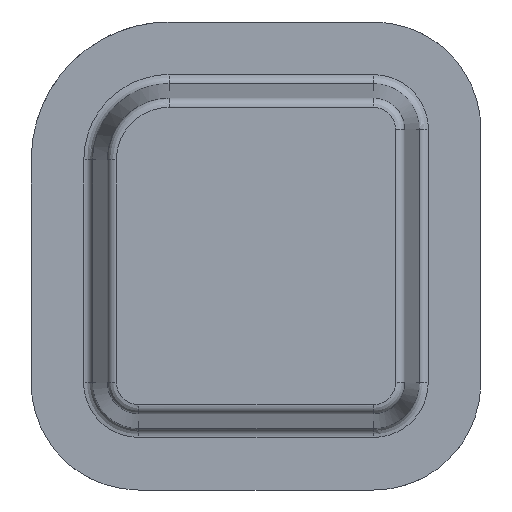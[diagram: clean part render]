
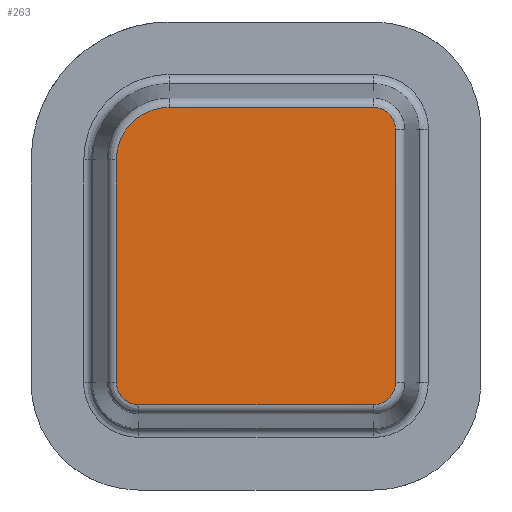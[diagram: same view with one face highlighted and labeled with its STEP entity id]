
A CAD part, front view. The second image highlights one B-rep face of the part: STEP entity #263.
In plain terms, the highlighted planar face has unit normal (0, -1, 0).
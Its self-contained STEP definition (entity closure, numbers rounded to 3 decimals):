
#144=CARTESIAN_POINT('Axis2P3D Location',(49.58,0.,50.42)) ;
#149=CARTESIAN_POINT('Line Origine',(2.749,0.,46.5)) ;
#153=CARTESIAN_POINT('Vertex',(2.749,0.,83.)) ;
#155=CARTESIAN_POINT('Vertex',(2.749,0.,10.)) ;
#159=CARTESIAN_POINT('Control Point',(2.749,0.,10.)) ;
#160=CARTESIAN_POINT('Control Point',(2.749,0.,9.038)) ;
#161=CARTESIAN_POINT('Control Point',(2.908,0.,8.076)) ;
#162=CARTESIAN_POINT('Control Point',(3.227,0.,7.152)) ;
#163=CARTESIAN_POINT('Control Point',(4.158,0.,5.442)) ;
#164=CARTESIAN_POINT('Control Point',(5.59,0.,4.123)) ;
#165=CARTESIAN_POINT('Control Point',(6.41,0.,3.589)) ;
#166=CARTESIAN_POINT('Control Point',(7.601,0.,3.071)) ;
#167=CARTESIAN_POINT('Control Point',(8.862,0.,2.828)) ;
#168=CARTESIAN_POINT('Control Point',(9.181,0.,2.785)) ;
#169=CARTESIAN_POINT('Control Point',(9.537,0.,2.756)) ;
#170=CARTESIAN_POINT('Control Point',(9.893,0.,2.75)) ;
#171=CARTESIAN_POINT('Control Point',(9.929,0.,2.749)) ;
#172=CARTESIAN_POINT('Control Point',(9.964,0.,2.749)) ;
#173=CARTESIAN_POINT('Control Point',(10.,0.,2.749)) ;
#174=CARTESIAN_POINT('Vertex',(10.,0.,2.749)) ;
#177=CARTESIAN_POINT('Line Origine',(48.5,0.,2.749)) ;
#181=CARTESIAN_POINT('Vertex',(87.,0.,2.749)) ;
#185=CARTESIAN_POINT('Control Point',(87.,0.,2.749)) ;
#186=CARTESIAN_POINT('Control Point',(87.962,0.,2.749)) ;
#187=CARTESIAN_POINT('Control Point',(88.924,0.,2.908)) ;
#188=CARTESIAN_POINT('Control Point',(89.848,0.,3.227)) ;
#189=CARTESIAN_POINT('Control Point',(91.558,0.,4.158)) ;
#190=CARTESIAN_POINT('Control Point',(92.877,0.,5.59)) ;
#191=CARTESIAN_POINT('Control Point',(93.411,0.,6.41)) ;
#192=CARTESIAN_POINT('Control Point',(93.929,0.,7.601)) ;
#193=CARTESIAN_POINT('Control Point',(94.172,0.,8.862)) ;
#194=CARTESIAN_POINT('Control Point',(94.215,0.,9.181)) ;
#195=CARTESIAN_POINT('Control Point',(94.244,0.,9.537)) ;
#196=CARTESIAN_POINT('Control Point',(94.25,0.,9.893)) ;
#197=CARTESIAN_POINT('Control Point',(94.251,0.,9.929)) ;
#198=CARTESIAN_POINT('Control Point',(94.251,0.,9.964)) ;
#199=CARTESIAN_POINT('Control Point',(94.251,0.,10.)) ;
#200=CARTESIAN_POINT('Vertex',(94.251,0.,10.)) ;
#203=CARTESIAN_POINT('Line Origine',(94.251,0.,51.5)) ;
#207=CARTESIAN_POINT('Vertex',(94.251,0.,93.)) ;
#211=CARTESIAN_POINT('Control Point',(94.251,0.,93.)) ;
#212=CARTESIAN_POINT('Control Point',(94.251,0.,93.962)) ;
#213=CARTESIAN_POINT('Control Point',(94.092,0.,94.924)) ;
#214=CARTESIAN_POINT('Control Point',(93.773,0.,95.848)) ;
#215=CARTESIAN_POINT('Control Point',(92.842,0.,97.558)) ;
#216=CARTESIAN_POINT('Control Point',(91.41,0.,98.877)) ;
#217=CARTESIAN_POINT('Control Point',(90.59,0.,99.411)) ;
#218=CARTESIAN_POINT('Control Point',(89.399,0.,99.929)) ;
#219=CARTESIAN_POINT('Control Point',(88.138,0.,100.172)) ;
#220=CARTESIAN_POINT('Control Point',(87.819,0.,100.215)) ;
#221=CARTESIAN_POINT('Control Point',(87.463,0.,100.244)) ;
#222=CARTESIAN_POINT('Control Point',(87.107,0.,100.25)) ;
#223=CARTESIAN_POINT('Control Point',(87.071,0.,100.251)) ;
#224=CARTESIAN_POINT('Control Point',(87.036,0.,100.251)) ;
#225=CARTESIAN_POINT('Control Point',(87.,0.,100.251)) ;
#226=CARTESIAN_POINT('Vertex',(87.,0.,100.251)) ;
#229=CARTESIAN_POINT('Line Origine',(53.5,0.,100.251)) ;
#233=CARTESIAN_POINT('Vertex',(20.,0.,100.251)) ;
#237=CARTESIAN_POINT('Control Point',(20.,0.,100.251)) ;
#238=CARTESIAN_POINT('Control Point',(18.077,0.,100.251)) ;
#239=CARTESIAN_POINT('Control Point',(16.153,0.,99.983)) ;
#240=CARTESIAN_POINT('Control Point',(14.282,0.,99.447)) ;
#241=CARTESIAN_POINT('Control Point',(10.736,0.,97.869)) ;
#242=CARTESIAN_POINT('Control Point',(7.757,0.,95.382)) ;
#243=CARTESIAN_POINT('Control Point',(6.451,0.,93.937)) ;
#244=CARTESIAN_POINT('Control Point',(4.493,0.,91.044)) ;
#245=CARTESIAN_POINT('Control Point',(3.313,0.,87.767)) ;
#246=CARTESIAN_POINT('Control Point',(2.954,0.,86.257)) ;
#247=CARTESIAN_POINT('Control Point',(2.762,0.,84.684)) ;
#248=CARTESIAN_POINT('Control Point',(2.749,0.,83.108)) ;
#249=CARTESIAN_POINT('Control Point',(2.749,0.,83.072)) ;
#250=CARTESIAN_POINT('Control Point',(2.749,0.,83.036)) ;
#251=CARTESIAN_POINT('Control Point',(2.749,0.,83.)) ;
#145=DIRECTION('Axis2P3D Direction',(0.,-1.,0.)) ;
#146=DIRECTION('Axis2P3D XDirection',(0.367,0.,0.93)) ;
#150=DIRECTION('Vector Direction',(0.,0.,1.)) ;
#178=DIRECTION('Vector Direction',(1.,0.,0.)) ;
#204=DIRECTION('Vector Direction',(0.,0.,1.)) ;
#230=DIRECTION('Vector Direction',(-1.,0.,0.)) ;
#147=AXIS2_PLACEMENT_3D('Plane Axis2P3D',#144,#145,#146) ;
#254=ORIENTED_EDGE('',*,*,#157,.T.) ;
#255=ORIENTED_EDGE('',*,*,#176,.T.) ;
#256=ORIENTED_EDGE('',*,*,#183,.T.) ;
#257=ORIENTED_EDGE('',*,*,#202,.T.) ;
#258=ORIENTED_EDGE('',*,*,#209,.T.) ;
#259=ORIENTED_EDGE('',*,*,#228,.T.) ;
#260=ORIENTED_EDGE('',*,*,#235,.T.) ;
#261=ORIENTED_EDGE('',*,*,#252,.T.) ;
#151=VECTOR('Line Direction',#150,1.) ;
#179=VECTOR('Line Direction',#178,1.) ;
#205=VECTOR('Line Direction',#204,1.) ;
#231=VECTOR('Line Direction',#230,1.) ;
#263=ADVANCED_FACE('base',(#262),#148,.T.) ;
#158=B_SPLINE_CURVE_WITH_KNOTS('',5,(#159,#160,#161,#162,#163,#164,#165,#166,#167,#168,#169,#170,#171,#172,#173),.UNSPECIFIED.,.F.,.U.,(6,3,3,3,6),(25.408,35.211,45.02,48.289,48.652),.UNSPECIFIED.) ;
#184=B_SPLINE_CURVE_WITH_KNOTS('',5,(#185,#186,#187,#188,#189,#190,#191,#192,#193,#194,#195,#196,#197,#198,#199),.UNSPECIFIED.,.F.,.U.,(6,3,3,3,6),(25.409,35.212,45.02,48.289,48.653),.UNSPECIFIED.) ;
#210=B_SPLINE_CURVE_WITH_KNOTS('',5,(#211,#212,#213,#214,#215,#216,#217,#218,#219,#220,#221,#222,#223,#224,#225),.UNSPECIFIED.,.F.,.U.,(6,3,3,3,6),(25.409,35.212,45.02,48.289,48.653),.UNSPECIFIED.) ;
#236=B_SPLINE_CURVE_WITH_KNOTS('',5,(#237,#238,#239,#240,#241,#242,#243,#244,#245,#246,#247,#248,#249,#250,#251),.UNSPECIFIED.,.F.,.U.,(6,3,3,3,6),(37.393,53.315,69.256,82.,82.299),.UNSPECIFIED.) ;
#157=EDGE_CURVE('',#154,#156,#152,.F.) ;
#176=EDGE_CURVE('',#156,#175,#158,.T.) ;
#183=EDGE_CURVE('',#175,#182,#180,.T.) ;
#202=EDGE_CURVE('',#182,#201,#184,.T.) ;
#209=EDGE_CURVE('',#201,#208,#206,.T.) ;
#228=EDGE_CURVE('',#208,#227,#210,.T.) ;
#235=EDGE_CURVE('',#227,#234,#232,.T.) ;
#252=EDGE_CURVE('',#234,#154,#236,.T.) ;
#253=EDGE_LOOP('',(#254,#255,#256,#257,#258,#259,#260,#261)) ;
#262=FACE_OUTER_BOUND('',#253,.T.) ;
#152=LINE('Line',#149,#151) ;
#180=LINE('Line',#177,#179) ;
#206=LINE('Line',#203,#205) ;
#232=LINE('Line',#229,#231) ;
#148=PLANE('',#147) ;
#154=VERTEX_POINT('',#153) ;
#156=VERTEX_POINT('',#155) ;
#175=VERTEX_POINT('',#174) ;
#182=VERTEX_POINT('',#181) ;
#201=VERTEX_POINT('',#200) ;
#208=VERTEX_POINT('',#207) ;
#227=VERTEX_POINT('',#226) ;
#234=VERTEX_POINT('',#233) ;
